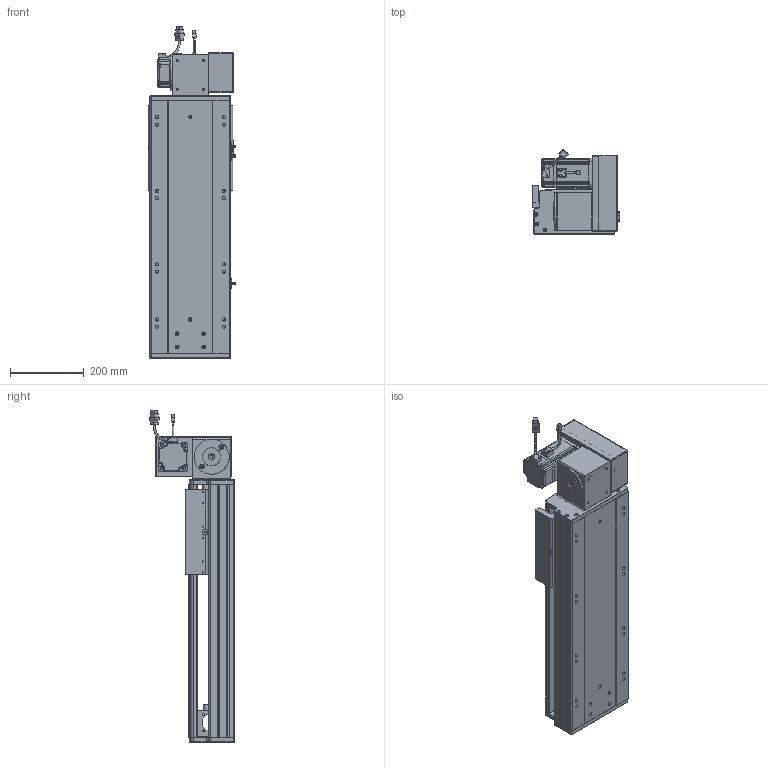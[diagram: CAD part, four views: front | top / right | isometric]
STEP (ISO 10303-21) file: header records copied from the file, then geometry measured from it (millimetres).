
FILE_DESCRIPTION (( 'STEP AP203' ), '1' );
FILE_NAME ('RY220-T-300-UR.SLDASM_350.step', '2022-07-25T08:42:29', ( '' ), ( '' ), 'SwSTEP 2.0', 'SolidWorks 2016', '' );
FILE_SCHEMA (( 'CONFIG_CONTROL_DESIGN' ));
Length unit declared in the file: millimetre
Products named in the file (14): RY220圉猾敕々湍臏賑輸; RY220翋肮祭謫裔啣; RY220-T菁釱-300_350; 110A-T-肮祭謫釱傷裔; 怢湛750W_ECMA-CX0807ES; RY220-T-蛌殏萇儂假蚾啣(750W); RY220翋肮祭謫釱; 滅袉蝶18-15; RY220-T-300-奻裔啣_350; RY220-俋离672覜茼んえ; 覜茼ん672; RY220-T-湍謫欶(鍼踢); RY220-T-300-UR.SLDASM_350; RY220-同步轮副支撑座6304×2
Assembly tree (18 placements, depth 2):
  RY220-T-300-UR.SLDASM_350
    RY220-T菁釱-300_350
    RY220翋肮祭謫釱
    覜茼ん672  x3
    RY220圉猾敕々湍臏賑輸
    RY220-T-300-奻裔啣_350
    RY220-俋离672覜茼んえ
    滅袉蝶18-15  x3
    RY220翋肮祭謫裔啣  x2
    110A-T-肮祭謫釱傷裔
    怢湛750W_ECMA-CX0807ES
    RY220-T-湍謫欶(鍼踢)
    RY220-T-蛌殏萇儂假蚾啣(750W)
    RY220-同步轮副支撑座6304×2
Bounding box: 238.7 x 231.74 x 903.27 mm (x, y, z)
Volume: 8053956.2 mm3; surface area: 2209173.5 mm2
Topology: 19 solids, 19 shells, 2494 faces, 6871 edges, 4384 vertices
Faces by surface type: cylinder 1138, plane 1069, cone 205, bspline 56, sphere 16, torus 10
Entity records: 82835 total; most frequent: CARTESIAN_POINT 23741, ORIENTED_EDGE 12314, DIRECTION 11520, EDGE_CURVE 6157, AXIS2_PLACEMENT_3D 4032, VERTEX_POINT 4008, VECTOR 3456, LINE 3456
